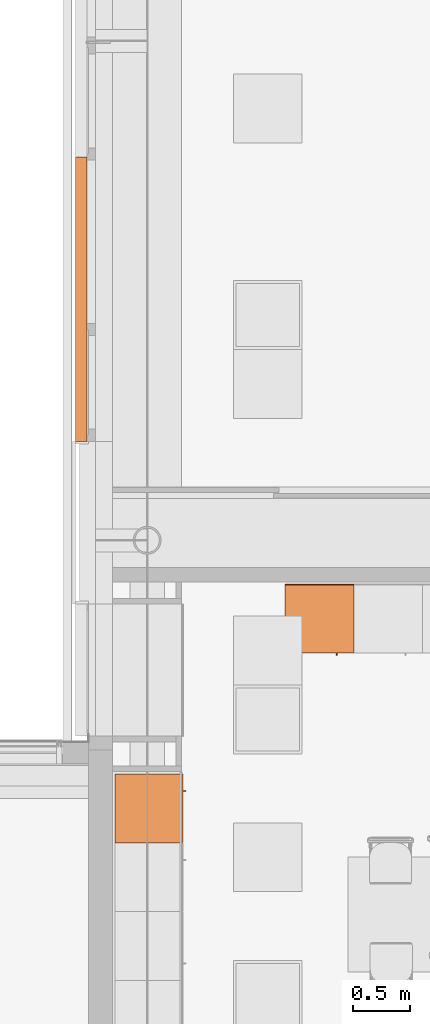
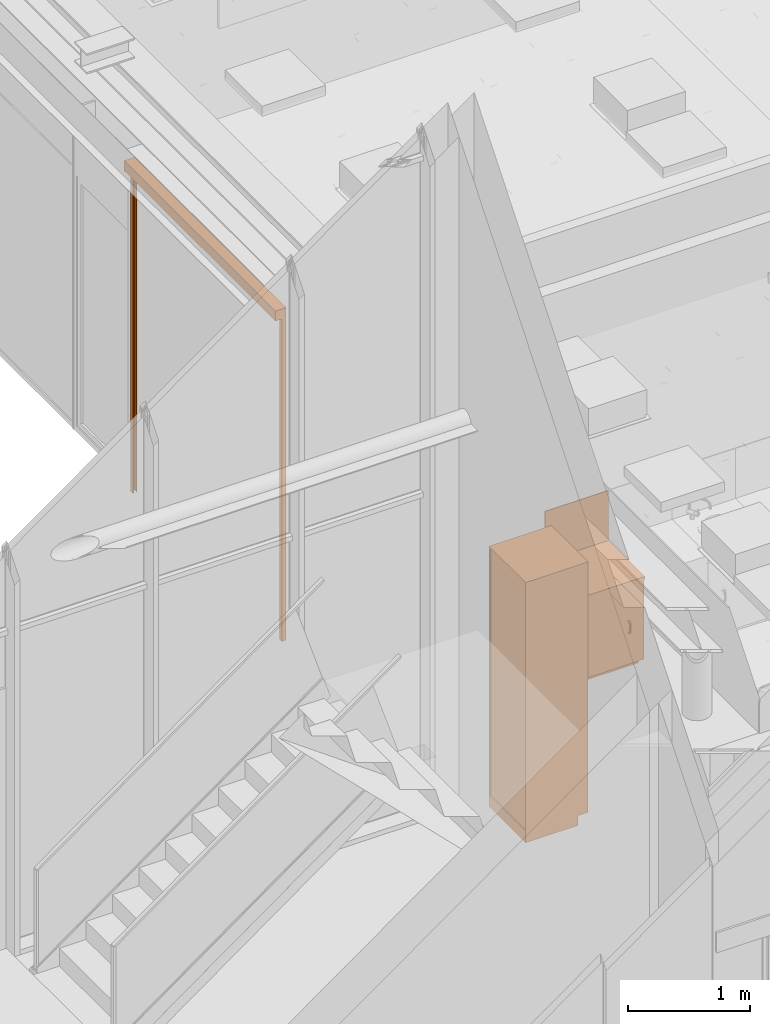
# One storey, part 343 of 347: 3 proxies.
"""IFC2X3 building model written with IfcOpenShell, lengths in millimetres."""

from ifc_helpers import new_model, entity, si_unit, converted_unit, derived_unit, money_unit, direction, frame, origin_with_axes, place, context, subcontext, project, spatial, open_shell, faceted_brep, surface_model, type_object, element, save


model = new_model("IFC2X3")

# Units and contexts
model_context = context("Model", 3, precision=0.01, world=origin_with_axes(), true_north=direction((0.0, 1.0)))
plan_context = context("Plan", 3, precision=0.01, world=origin_with_axes(), true_north=direction((0.0, 1.0)))
body_context = subcontext(model_context, "Body", "Model", "MODEL_VIEW")
ifc_project = project(units=[si_unit("LENGTHUNIT", "METRE", prefix="MILLI"), si_unit("AREAUNIT", "SQUARE_METRE"), si_unit("VOLUMEUNIT", "CUBIC_METRE"), converted_unit("PLANEANGLEUNIT", "DEGREE", entity("IfcPlaneAngleMeasure", 0.0174532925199), si_unit("PLANEANGLEUNIT", "RADIAN"), dimensions=[0, 0, 0, 0, 0, 0, 0]), money_unit("EUR"), converted_unit("TIMEUNIT", "Year", entity("IfcTimeMeasure", 31556926.0), si_unit("TIMEUNIT", "SECOND"), dimensions=[0, 0, 1, 0, 0, 0, 0]), si_unit("MASSUNIT", "GRAM", prefix="KILO"), si_unit("THERMODYNAMICTEMPERATUREUNIT", "DEGREE_CELSIUS"), si_unit("LUMINOUSINTENSITYUNIT", "LUMEN"), si_unit("ENERGYUNIT", "JOULE", prefix="MEGA"), derived_unit("THERMALCONDUCTANCEUNIT", [(si_unit("POWERUNIT", "WATT"), 1), (si_unit("LENGTHUNIT", "METRE"), -1), (si_unit("THERMODYNAMICTEMPERATUREUNIT", "KELVIN"), -1)]), derived_unit("SPECIFICHEATCAPACITYUNIT", [(si_unit("ENERGYUNIT", "JOULE"), 1), (si_unit("MASSUNIT", "GRAM", prefix="KILO"), -1), (si_unit("THERMODYNAMICTEMPERATUREUNIT", "KELVIN"), -1)]), derived_unit("MASSDENSITYUNIT", [(si_unit("MASSUNIT", "GRAM", prefix="KILO"), 1), (si_unit("VOLUMEUNIT", "CUBIC_METRE"), -1)])], contexts=[model_context, plan_context])

# Site, building, storey
site_placement = place(None, origin_with_axes())
site = spatial("IfcSite", under=ifc_project, at=site_placement, Name="Site", CompositionType="ELEMENT")
building_placement = place(site_placement, origin_with_axes())
building = spatial("IfcBuilding", under=site, at=building_placement, Name="Naam gebouw", CompositionType="ELEMENT")
storey_placement = place(building_placement, origin_with_axes())
storey = spatial("IfcBuildingStorey", under=building, at=storey_placement, Name="begane grond", CompositionType="ELEMENT", Elevation=0.0)

# Proxies
building_element_proxy_type_1 = type_object("IfcBuildingElementProxyType", Name="Onderkast recht 25", PredefinedType="NOTDEFINED")
proxy_1_placement = place(storey_placement, frame((24295.0, 17715.0, 0.0), z_axis=(0.0, 0.0, 1.0), x_axis=(0.0, 1.0, 0.0)))
element("IfcBuildingElementProxy", 1, at=proxy_1_placement, inside=storey, type_object=building_element_proxy_type_1, Name="_73 pantryblok", context=body_context, shape_type="Brep", body=[
    faceted_brep([(0.0, -492.0, 2.0), (600.0, -492.0, 2.0), (600.0, -492.0, 100.0), (0.0, -492.0, 100.0), (600.0, 0.0, 2.0), (0.0, 0.0, 2.0), (600.0, 0.0, 100.0), (0.0, 0.0, 100.0)], [[[0, 1, 2, 3]], [[4, 1, 0, 5]], [[1, 4, 6, 2]], [[7, 3, 2, 6]], [[5, 0, 3, 7]], [[4, 5, 7, 6]]]),
    faceted_brep([(446.0, -590.0, 1251.0), (446.0, -590.0, 1261.0), (456.0, -590.0, 1261.0), (456.0, -590.0, 1251.0), (446.0, -600.0, 1251.0), (446.0, -603.472963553, 1251.30384494), (446.0, -606.840402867, 1252.20614758), (446.0, -610.0, 1253.67949192), (446.0, -612.855752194, 1255.67911114), (446.0, -615.320888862, 1258.14424781), (446.0, -617.320508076, 1261.0), (446.0, -618.793852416, 1264.15959713), (446.0, -619.69615506, 1267.52703645), (446.0, -620.0, 1271.0), (446.0, -620.0, 1351.0), (446.0, -619.69615506, 1354.47296355), (446.0, -618.793852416, 1357.84040287), (446.0, -617.320508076, 1361.0), (446.0, -615.320888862, 1363.85575219), (446.0, -612.855752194, 1366.32088886), (446.0, -610.0, 1368.32050808), (446.0, -606.840402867, 1369.79385242), (446.0, -603.472963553, 1370.69615506), (446.0, -600.0, 1371.0), (446.0, -590.0, 1371.0), (446.0, -590.0, 1361.0), (446.0, -600.0, 1361.0), (446.0, -601.736481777, 1360.84807753), (446.0, -603.420201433, 1360.39692621), (446.0, -605.0, 1359.66025404), (446.0, -606.427876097, 1358.66044443), (446.0, -607.660444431, 1357.4278761), (446.0, -608.660254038, 1356.0), (446.0, -609.396926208, 1354.42020143), (446.0, -609.84807753, 1352.73648178), (446.0, -610.0, 1351.0), (446.0, -610.0, 1271.0), (446.0, -609.84807753, 1269.26351822), (446.0, -609.396926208, 1267.57979857), (446.0, -608.660254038, 1266.0), (446.0, -607.660444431, 1264.5721239), (446.0, -606.427876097, 1263.33955557), (446.0, -605.0, 1262.33974596), (446.0, -603.420201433, 1261.60307379), (446.0, -601.736481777, 1261.15192247), (446.0, -600.0, 1261.0), (456.0, -600.0, 1261.0), (456.0, -601.736481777, 1261.15192247), (456.0, -603.420201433, 1261.60307379), (456.0, -605.0, 1262.33974596), (456.0, -606.427876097, 1263.33955557), (456.0, -607.660444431, 1264.5721239), (456.0, -608.660254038, 1266.0), (456.0, -609.396926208, 1267.57979857), (456.0, -609.84807753, 1269.26351822), (456.0, -610.0, 1271.0), (456.0, -610.0, 1351.0), (456.0, -609.84807753, 1352.73648178), (456.0, -609.396926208, 1354.42020143), (456.0, -608.660254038, 1356.0), (456.0, -607.660444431, 1357.4278761), (456.0, -606.427876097, 1358.66044443), (456.0, -605.0, 1359.66025404), (456.0, -603.420201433, 1360.39692621), (456.0, -601.736481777, 1360.84807753), (456.0, -600.0, 1361.0), (456.0, -590.0, 1361.0), (456.0, -590.0, 1371.0), (456.0, -600.0, 1371.0), (456.0, -603.472963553, 1370.69615506), (456.0, -606.840402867, 1369.79385242), (456.0, -610.0, 1368.32050808), (456.0, -612.855752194, 1366.32088886), (456.0, -615.320888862, 1363.85575219), (456.0, -617.320508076, 1361.0), (456.0, -618.793852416, 1357.84040287), (456.0, -619.69615506, 1354.47296355), (456.0, -620.0, 1351.0), (456.0, -620.0, 1271.0), (456.0, -619.69615506, 1267.52703645), (456.0, -618.793852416, 1264.15959713), (456.0, -617.320508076, 1261.0), (456.0, -615.320888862, 1258.14424781), (456.0, -612.855752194, 1255.67911114), (456.0, -610.0, 1253.67949192), (456.0, -606.840402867, 1252.20614758), (456.0, -603.472963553, 1251.30384494), (456.0, -600.0, 1251.0)], [[[0, 1, 2, 3]], [[0, 4, 5, 6, 7, 8, 9, 10, 11, 12, 13, 14, 15, 16, 17, 18, 19, 20, 21, 22, 23, 24, 25, 26, 27, 28, 29, 30, 31, 32, 33, 34, 35, 36, 37, 38, 39, 40, 41, 42, 43, 44, 45, 1]], [[1, 45, 46, 2]], [[3, 2, 46, 47, 48, 49, 50, 51, 52, 53, 54, 55, 56, 57, 58, 59, 60, 61, 62, 63, 64, 65, 66, 67, 68, 69, 70, 71, 72, 73, 74, 75, 76, 77, 78, 79, 80, 81, 82, 83, 84, 85, 86, 87]], [[4, 0, 3, 87]], [[5, 4, 87, 86]], [[6, 5, 86, 85]], [[7, 6, 85, 84]], [[8, 7, 84, 83]], [[9, 8, 83, 82]], [[10, 9, 82, 81]], [[11, 10, 81, 80]], [[12, 11, 80, 79]], [[13, 12, 79, 78]], [[14, 13, 78, 77]], [[15, 14, 77, 76]], [[16, 15, 76, 75]], [[17, 16, 75, 74]], [[18, 17, 74, 73]], [[19, 18, 73, 72]], [[20, 19, 72, 71]], [[21, 20, 71, 70]], [[22, 21, 70, 69]], [[23, 22, 69, 68]], [[24, 23, 68, 67]], [[25, 24, 67, 66]], [[26, 25, 66, 65]], [[27, 26, 65, 64]], [[28, 27, 64, 63]], [[29, 28, 63, 62]], [[30, 29, 62, 61]], [[31, 30, 61, 60]], [[32, 31, 60, 59]], [[33, 32, 59, 58]], [[34, 33, 58, 57]], [[35, 34, 57, 56]], [[36, 35, 56, 55]], [[37, 36, 55, 54]], [[38, 37, 54, 53]], [[39, 38, 53, 52]], [[40, 39, 52, 51]], [[41, 40, 51, 50]], [[42, 41, 50, 49]], [[43, 42, 49, 48]], [[44, 43, 48, 47]], [[45, 44, 47, 46]]]),
    faceted_brep([(1.0, -572.0, 101.0), (599.0, -572.0, 101.0), (599.0, -590.0, 101.0), (1.0, -590.0, 101.0), (1.0, -572.0, 2599.0), (599.0, -572.0, 2599.0), (599.0, -590.0, 2599.0), (1.0, -590.0, 2599.0)], [[[0, 1, 2, 3]], [[0, 4, 5, 1]], [[1, 5, 6, 2]], [[3, 2, 6, 7]], [[4, 0, 3, 7]], [[5, 4, 7, 6]]]),
    faceted_brep([(18.0, -572.0, 100.0), (582.0, -572.0, 100.0), (582.0, -572.0, 118.0), (18.0, -572.0, 118.0), (18.0, 0.0, 100.0), (582.0, 0.0, 100.0), (582.0, 0.0, 118.0), (18.0, 0.0, 118.0)], [[[0, 1, 2, 3]], [[0, 4, 5, 1]], [[1, 5, 6, 2]], [[3, 2, 6, 7]], [[4, 0, 3, 7]], [[5, 4, 7, 6]]]),
    faceted_brep([(18.0, -572.0, 2582.0), (582.0, -572.0, 2582.0), (582.0, -572.0, 2600.0), (18.0, -572.0, 2600.0), (18.0, 0.0, 2582.0), (582.0, 0.0, 2582.0), (582.0, 0.0, 2600.0), (18.0, 0.0, 2600.0)], [[[0, 1, 2, 3]], [[0, 4, 5, 1]], [[1, 5, 6, 2]], [[3, 2, 6, 7]], [[4, 0, 3, 7]], [[5, 4, 7, 6]]]),
    faceted_brep([(0.0, 0.0, 100.0), (0.0, -572.0, 100.0), (0.0, -572.0, 2600.0), (0.0, 0.0, 2600.0), (18.0, 0.0, 100.0), (18.0, -572.0, 100.0), (18.0, -572.0, 2600.0), (18.0, 0.0, 2600.0)], [[[0, 1, 2, 3]], [[0, 4, 5, 1]], [[1, 5, 6, 2]], [[3, 2, 6, 7]], [[4, 0, 3, 7]], [[5, 4, 7, 6]]]),
    faceted_brep([(600.0, -572.0, 100.0), (600.0, 0.0, 100.0), (600.0, 0.0, 2600.0), (600.0, -572.0, 2600.0), (582.0, -572.0, 100.0), (582.0, 0.0, 100.0), (582.0, 0.0, 2600.0), (582.0, -572.0, 2600.0)], [[[0, 1, 2, 3]], [[0, 4, 5, 1]], [[1, 5, 6, 2]], [[3, 2, 6, 7]], [[4, 0, 3, 7]], [[5, 4, 7, 6]]]),
    faceted_brep([(582.0, -9.0, 118.0), (18.0, -9.0, 118.0), (18.0, -9.0, 2582.0), (582.0, -9.0, 2582.0), (582.0, -18.0, 118.0), (18.0, -18.0, 118.0), (18.0, -18.0, 2582.0), (582.0, -18.0, 2582.0)], [[[0, 1, 2, 3]], [[0, 4, 5, 1]], [[1, 5, 6, 2]], [[3, 2, 6, 7]], [[4, 0, 3, 7]], [[5, 4, 7, 6]]]),
])
proxy_2_placement = place(storey_placement, frame((25775.0, 19967.5, 0.0), z_axis=(0.0, 0.0, 1.0), x_axis=(1.0, 0.0, 0.0)))
element("IfcBuildingElementProxy", 2, at=proxy_2_placement, inside=storey, type_object=building_element_proxy_type_1, Name="_73 pantryblok", context=body_context, shape_type="Brep", body=[
    faceted_brep([(600.0, -492.0, 2.0), (600.0, 0.0, 2.0), (600.0, 0.0, 100.0), (600.0, -492.0, 100.0), (0.0, 0.0, 2.0), (0.0, -492.0, 2.0), (0.0, 0.0, 100.0), (0.0, -492.0, 100.0)], [[[0, 1, 2, 3]], [[4, 1, 0, 5]], [[1, 4, 6, 2]], [[6, 7, 3, 2]], [[5, 0, 3, 7]], [[4, 5, 7, 6]]]),
    faceted_brep([(0.0, -600.0, 900.0), (600.0, -600.0, 900.0), (600.0, -600.0, 930.0), (0.0, -600.0, 930.0), (0.0, 0.0, 900.0), (600.0, 0.0, 900.0), (600.0, 0.0, 930.0), (0.0, 0.0, 930.0)], [[[0, 1, 2, 3]], [[0, 4, 5, 1]], [[1, 5, 6, 2]], [[3, 2, 6, 7]], [[4, 0, 3, 7]], [[5, 4, 7, 6]]]),
    faceted_brep([(600.0, 0.0, 930.0), (600.0, -6.0, 930.0), (0.0, -6.0, 930.0), (0.0, 0.0, 930.0), (600.0, 0.0, 1430.0), (600.0, -6.0, 1430.0), (0.0, -6.0, 1430.0), (0.0, 0.0, 1430.0)], [[[0, 1, 2, 3]], [[0, 4, 5, 1]], [[1, 5, 6, 2]], [[3, 2, 6, 7]], [[4, 0, 3, 7]], [[5, 4, 7, 6]]]),
    faceted_brep([(446.0, -590.0, 416.0), (446.0, -590.0, 426.0), (456.0, -590.0, 426.0), (456.0, -590.0, 416.0), (446.0, -600.0, 416.0), (446.0, -603.472963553, 416.30384494), (446.0, -606.840402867, 417.206147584), (446.0, -610.0, 418.679491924), (446.0, -612.855752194, 420.679111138), (446.0, -615.320888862, 423.144247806), (446.0, -617.320508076, 426.0), (446.0, -618.793852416, 429.159597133), (446.0, -619.69615506, 432.527036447), (446.0, -620.0, 436.0), (446.0, -620.0, 516.0), (446.0, -619.69615506, 519.472963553), (446.0, -618.793852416, 522.840402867), (446.0, -617.320508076, 526.0), (446.0, -615.320888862, 528.855752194), (446.0, -612.855752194, 531.320888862), (446.0, -610.0, 533.320508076), (446.0, -606.840402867, 534.793852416), (446.0, -603.472963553, 535.69615506), (446.0, -600.0, 536.0), (446.0, -590.0, 536.0), (446.0, -590.0, 526.0), (446.0, -600.0, 526.0), (446.0, -601.736481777, 525.84807753), (446.0, -603.420201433, 525.396926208), (446.0, -605.0, 524.660254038), (446.0, -606.427876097, 523.660444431), (446.0, -607.660444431, 522.427876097), (446.0, -608.660254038, 521.0), (446.0, -609.396926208, 519.420201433), (446.0, -609.84807753, 517.736481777), (446.0, -610.0, 516.0), (446.0, -610.0, 436.0), (446.0, -609.84807753, 434.263518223), (446.0, -609.396926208, 432.579798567), (446.0, -608.660254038, 431.0), (446.0, -607.660444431, 429.572123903), (446.0, -606.427876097, 428.339555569), (446.0, -605.0, 427.339745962), (446.0, -603.420201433, 426.603073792), (446.0, -601.736481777, 426.15192247), (446.0, -600.0, 426.0), (456.0, -600.0, 426.0), (456.0, -601.736481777, 426.15192247), (456.0, -603.420201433, 426.603073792), (456.0, -605.0, 427.339745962), (456.0, -606.427876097, 428.339555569), (456.0, -607.660444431, 429.572123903), (456.0, -608.660254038, 431.0), (456.0, -609.396926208, 432.579798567), (456.0, -609.84807753, 434.263518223), (456.0, -610.0, 436.0), (456.0, -610.0, 516.0), (456.0, -609.84807753, 517.736481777), (456.0, -609.396926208, 519.420201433), (456.0, -608.660254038, 521.0), (456.0, -607.660444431, 522.427876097), (456.0, -606.427876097, 523.660444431), (456.0, -605.0, 524.660254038), (456.0, -603.420201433, 525.396926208), (456.0, -601.736481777, 525.84807753), (456.0, -600.0, 526.0), (456.0, -590.0, 526.0), (456.0, -590.0, 536.0), (456.0, -600.0, 536.0), (456.0, -603.472963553, 535.69615506), (456.0, -606.840402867, 534.793852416), (456.0, -610.0, 533.320508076), (456.0, -612.855752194, 531.320888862), (456.0, -615.320888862, 528.855752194), (456.0, -617.320508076, 526.0), (456.0, -618.793852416, 522.840402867), (456.0, -619.69615506, 519.472963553), (456.0, -620.0, 516.0), (456.0, -620.0, 436.0), (456.0, -619.69615506, 432.527036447), (456.0, -618.793852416, 429.159597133), (456.0, -617.320508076, 426.0), (456.0, -615.320888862, 423.144247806), (456.0, -612.855752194, 420.679111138), (456.0, -610.0, 418.679491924), (456.0, -606.840402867, 417.206147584), (456.0, -603.472963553, 416.30384494), (456.0, -600.0, 416.0)], [[[0, 1, 2, 3]], [[0, 4, 5, 6, 7, 8, 9, 10, 11, 12, 13, 14, 15, 16, 17, 18, 19, 20, 21, 22, 23, 24, 25, 26, 27, 28, 29, 30, 31, 32, 33, 34, 35, 36, 37, 38, 39, 40, 41, 42, 43, 44, 45, 1]], [[1, 45, 46, 2]], [[3, 2, 46, 47, 48, 49, 50, 51, 52, 53, 54, 55, 56, 57, 58, 59, 60, 61, 62, 63, 64, 65, 66, 67, 68, 69, 70, 71, 72, 73, 74, 75, 76, 77, 78, 79, 80, 81, 82, 83, 84, 85, 86, 87]], [[4, 0, 3, 87]], [[5, 4, 87, 86]], [[6, 5, 86, 85]], [[7, 6, 85, 84]], [[8, 7, 84, 83]], [[9, 8, 83, 82]], [[10, 9, 82, 81]], [[11, 10, 81, 80]], [[12, 11, 80, 79]], [[13, 12, 79, 78]], [[14, 13, 78, 77]], [[15, 14, 77, 76]], [[16, 15, 76, 75]], [[17, 16, 75, 74]], [[18, 17, 74, 73]], [[19, 18, 73, 72]], [[20, 19, 72, 71]], [[21, 20, 71, 70]], [[22, 21, 70, 69]], [[23, 22, 69, 68]], [[24, 23, 68, 67]], [[25, 24, 67, 66]], [[26, 25, 66, 65]], [[27, 26, 65, 64]], [[28, 27, 64, 63]], [[29, 28, 63, 62]], [[30, 29, 62, 61]], [[31, 30, 61, 60]], [[32, 31, 60, 59]], [[33, 32, 59, 58]], [[34, 33, 58, 57]], [[35, 34, 57, 56]], [[36, 35, 56, 55]], [[37, 36, 55, 54]], [[38, 37, 54, 53]], [[39, 38, 53, 52]], [[40, 39, 52, 51]], [[41, 40, 51, 50]], [[42, 41, 50, 49]], [[43, 42, 49, 48]], [[44, 43, 48, 47]], [[45, 44, 47, 46]]]),
    faceted_brep([(1.0, -572.0, 101.0), (599.0, -572.0, 101.0), (599.0, -590.0, 101.0), (1.0, -590.0, 101.0), (1.0, -572.0, 899.0), (599.0, -572.0, 899.0), (599.0, -590.0, 899.0), (1.0, -590.0, 899.0)], [[[0, 1, 2, 3]], [[0, 4, 5, 1]], [[1, 5, 6, 2]], [[3, 2, 6, 7]], [[4, 0, 3, 7]], [[5, 4, 7, 6]]]),
    faceted_brep([(18.0, -572.0, 100.0), (582.0, -572.0, 100.0), (582.0, -572.0, 118.0), (18.0, -572.0, 118.0), (18.0, 0.0, 100.0), (582.0, 0.0, 100.0), (582.0, 0.0, 118.0), (18.0, 0.0, 118.0)], [[[0, 1, 2, 3]], [[0, 4, 5, 1]], [[1, 5, 6, 2]], [[3, 2, 6, 7]], [[4, 0, 3, 7]], [[5, 4, 7, 6]]]),
    faceted_brep([(18.0, -572.0, 882.0), (18.0, -512.0, 882.0), (582.0, -512.0, 882.0), (582.0, -572.0, 882.0), (18.0, -572.0, 900.0), (18.0, -512.0, 900.0), (582.0, -512.0, 900.0), (582.0, -572.0, 900.0)], [[[0, 1, 2, 3]], [[0, 4, 5, 1]], [[1, 5, 6, 2]], [[3, 2, 6, 7]], [[4, 0, 3, 7]], [[5, 4, 7, 6]]]),
    faceted_brep([(582.0, 0.0, 882.0), (582.0, -60.0, 882.0), (18.0, -60.0, 882.0), (18.0, 0.0, 882.0), (582.0, 0.0, 900.0), (582.0, -60.0, 900.0), (18.0, -60.0, 900.0), (18.0, 0.0, 900.0)], [[[0, 1, 2, 3]], [[0, 4, 5, 1]], [[1, 5, 6, 2]], [[3, 2, 6, 7]], [[4, 0, 3, 7]], [[5, 4, 7, 6]]]),
    faceted_brep([(0.0, 0.0, 100.0), (0.0, -572.0, 100.0), (0.0, -572.0, 900.0), (0.0, 0.0, 900.0), (18.0, 0.0, 100.0), (18.0, -572.0, 100.0), (18.0, -572.0, 900.0), (18.0, 0.0, 900.0)], [[[0, 1, 2, 3]], [[0, 4, 5, 1]], [[1, 5, 6, 2]], [[3, 2, 6, 7]], [[4, 0, 3, 7]], [[5, 4, 7, 6]]]),
    faceted_brep([(600.0, -572.0, 100.0), (600.0, 0.0, 100.0), (600.0, 0.0, 900.0), (600.0, -572.0, 900.0), (582.0, -572.0, 100.0), (582.0, 0.0, 100.0), (582.0, 0.0, 900.0), (582.0, -572.0, 900.0)], [[[0, 1, 2, 3]], [[0, 4, 5, 1]], [[1, 5, 6, 2]], [[3, 2, 6, 7]], [[4, 0, 3, 7]], [[5, 4, 7, 6]]]),
    faceted_brep([(582.0, -9.0, 118.0), (18.0, -9.0, 118.0), (18.0, -9.0, 882.0), (582.0, -9.0, 882.0), (582.0, -18.0, 118.0), (18.0, -18.0, 118.0), (18.0, -18.0, 882.0), (582.0, -18.0, 882.0)], [[[0, 1, 2, 3]], [[0, 4, 5, 1]], [[1, 5, 6, 2]], [[3, 2, 6, 7]], [[4, 0, 3, 7]], [[5, 4, 7, 6]]]),
])
building_element_proxy_type_2 = type_object("IfcBuildingElementProxyType", Name="Screen 25 KM", PredefinedType="NOTDEFINED")
proxy_3_placement = place(storey_placement, frame((24052.0, 21212.4999997, -10.0), z_axis=(0.0, 0.0, 1.0), x_axis=(0.0, -1.0, 0.0)))
element("IfcBuildingElementProxy", 3, at=proxy_3_placement, inside=storey, type_object=building_element_proxy_type_2, Name="_78 garderobe", context=body_context, shape_type="SurfaceModel", body=[
    faceted_brep([(0.0, 0.0, 0.0), (0.0, 0.0, 3220.0), (0.0, -40.0, 3220.0), (0.0, -40.0, 0.0), (-38.0, 0.0, 0.0), (-38.0, 0.0, 3220.0), (-38.0, -10.0, 3220.0), (-35.0, -10.0, 3220.0), (-35.0, -3.0, 3220.0), (-3.0, -3.0, 3220.0), (-3.0, -37.0, 3220.0), (-35.0, -37.0, 3220.0), (-35.0, -30.0, 3220.0), (-38.0, -30.0, 3220.0), (-38.0, -40.0, 3220.0), (-38.0, -40.0, 0.0), (-38.0, -30.0, 0.0), (-35.0, -30.0, 0.0), (-35.0, -37.0, 0.0), (-3.0, -37.0, 0.0), (-3.0, -3.0, 0.0), (-35.0, -3.0, 0.0), (-35.0, -10.0, 0.0), (-38.0, -10.0, 0.0)], [[[0, 1, 2, 3]], [[4, 5, 1, 0]], [[1, 5, 6, 7, 8, 9, 10, 11, 12, 13, 14, 2]], [[3, 2, 14, 15]], [[0, 3, 15, 16, 17, 18, 19, 20, 21, 22, 23, 4]], [[23, 6, 5, 4]], [[22, 7, 6, 23]], [[21, 8, 7, 22]], [[20, 9, 8, 21]], [[19, 10, 9, 20]], [[18, 11, 10, 19]], [[17, 12, 11, 18]], [[16, 13, 12, 17]], [[15, 14, 13, 16]]]),
    faceted_brep([(-2475.0, 0.0, 0.0), (-2475.0, -40.0, 0.0), (-2475.0, -40.0, 3220.0), (-2475.0, 0.0, 3220.0), (-2437.0, 0.0, 0.0), (-2437.0, -10.0, 0.0), (-2440.0, -10.0, 0.0), (-2440.0, -3.0, 0.0), (-2472.0, -3.0, 0.0), (-2472.0, -37.0, 0.0), (-2440.0, -37.0, 0.0), (-2440.0, -30.0, 0.0), (-2437.0, -30.0, 0.0), (-2437.0, -40.0, 0.0), (-2437.0, -40.0, 3220.0), (-2437.0, -30.0, 3220.0), (-2440.0, -30.0, 3220.0), (-2440.0, -37.0, 3220.0), (-2472.0, -37.0, 3220.0), (-2472.0, -3.0, 3220.0), (-2440.0, -3.0, 3220.0), (-2440.0, -10.0, 3220.0), (-2437.0, -10.0, 3220.0), (-2437.0, 0.0, 3220.0)], [[[0, 1, 2, 3]], [[0, 4, 5, 6, 7, 8, 9, 10, 11, 12, 13, 1]], [[1, 13, 14, 2]], [[3, 2, 14, 15, 16, 17, 18, 19, 20, 21, 22, 23]], [[4, 0, 3, 23]], [[5, 4, 23, 22]], [[6, 5, 22, 21]], [[7, 6, 21, 20]], [[8, 7, 20, 19]], [[9, 8, 19, 18]], [[10, 9, 18, 17]], [[11, 10, 17, 16]], [[12, 11, 16, 15]], [[13, 12, 15, 14]]]),
    surface_model("IfcShellBasedSurfaceModel", [(0.0, 0.0, 3320.0), (0.0, -100.0, 3320.0), (0.0, -100.0, 3220.0), (0.0, 0.0, 3220.0)], [open_shell([[[0, 1, 2, 3]]])]),
    surface_model("IfcShellBasedSurfaceModel", [(-0.01, 0.0, 3320.0), (-2474.99, 0.0, 3320.0), (-2474.99, -100.0, 3320.0), (-0.00999999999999, -100.0, 3320.0), (-0.01, 0.0, 3223.0), (-2474.99, 0.0, 3223.0), (-2474.99, -6.0, 3223.0), (-2474.99, -6.0, 3226.0), (-2474.99, -3.0, 3226.0), (-2474.99, -3.0, 3317.0), (-2474.99, -97.0, 3317.0), (-2474.99, -97.0, 3223.0), (-2474.99, -40.0, 3223.0), (-2474.99, -40.0, 3217.0), (-2474.99, -43.0, 3217.0), (-2474.99, -43.0, 3220.0), (-2474.99, -100.0, 3220.0), (-0.01, -100.0, 3220.0), (-0.01, -43.0, 3220.0), (-0.01, -43.0, 3217.0), (-0.01, -40.0, 3217.0), (-0.01, -40.0, 3223.0), (-0.01, -97.0, 3223.0), (-0.00999999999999, -97.0, 3317.0), (-0.01, -3.0, 3317.0), (-0.01, -3.0, 3226.0), (-0.01, -6.0, 3226.0), (-0.01, -6.0, 3223.0)], [open_shell([[[0, 1, 2, 3]], [[4, 5, 1, 0]], [[1, 5, 6, 7, 8, 9, 10, 11, 12, 13, 14, 15, 16, 2]], [[3, 2, 16, 17]], [[0, 3, 17, 18, 19, 20, 21, 22, 23, 24, 25, 26, 27, 4]], [[19, 14, 13, 20]], [[18, 15, 14, 19]], [[17, 16, 15, 18]]])]),
    surface_model("IfcShellBasedSurfaceModel", [(-2474.99, 0.0, 3320.0), (-2474.99, -100.0, 3320.0), (-2474.99, -100.0, 3220.0), (-2474.99, 0.0, 3220.0)], [open_shell([[[0, 1, 2, 3]]])]),
])

save(model, "model.ifc")
